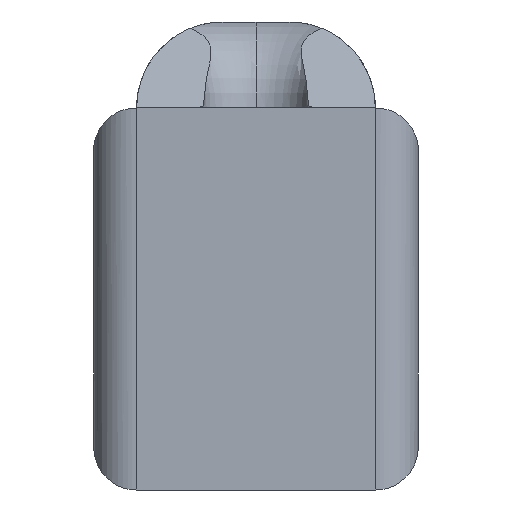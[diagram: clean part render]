
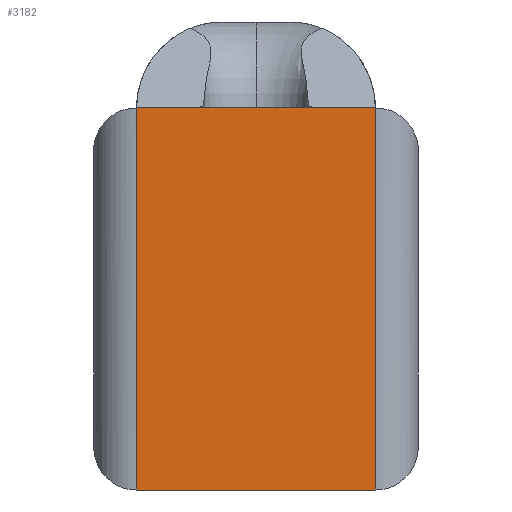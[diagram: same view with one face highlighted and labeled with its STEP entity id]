
A CAD part, left-side view. The second image highlights one B-rep face of the part: STEP entity #3182.
In plain terms, the highlighted planar face has unit normal (-1, 0, 0).
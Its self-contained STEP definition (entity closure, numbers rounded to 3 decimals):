
#69 = ORIENTED_EDGE ( 'NONE', *, *, #2086, .T. ) ;
#88 = EDGE_LOOP ( 'NONE', ( #705, #212, #681, #69 ) ) ;
#212 = ORIENTED_EDGE ( 'NONE', *, *, #4161, .F. ) ;
#275 = LINE ( 'NONE', #596, #3458 ) ;
#330 = DIRECTION ( 'NONE',  ( 0., 1., 0. ) ) ;
#351 = VERTEX_POINT ( 'NONE', #850 ) ;
#504 = DIRECTION ( 'NONE',  ( 0., -1., 0. ) ) ;
#596 = CARTESIAN_POINT ( 'NONE',  ( -11., 2.5, -4. ) ) ;
#655 = VERTEX_POINT ( 'NONE', #1603 ) ;
#681 = ORIENTED_EDGE ( 'NONE', *, *, #3411, .F. ) ;
#694 = DIRECTION ( 'NONE',  ( 1., 0., 0. ) ) ;
#705 = ORIENTED_EDGE ( 'NONE', *, *, #4309, .T. ) ;
#849 = VECTOR ( 'NONE', #4006, 1000. ) ;
#850 = CARTESIAN_POINT ( 'NONE',  ( -11., 2.5, 4. ) ) ;
#1326 = CARTESIAN_POINT ( 'NONE',  ( -11., -2.5, -4. ) ) ;
#1329 = PLANE ( 'NONE',  #1936 ) ;
#1439 = CARTESIAN_POINT ( 'NONE',  ( -11., 2.5, 4. ) ) ;
#1451 = VERTEX_POINT ( 'NONE', #1326 ) ;
#1468 = CARTESIAN_POINT ( 'NONE',  ( -11., 2.5, 4. ) ) ;
#1561 = DIRECTION ( 'NONE',  ( 0., 0., -1. ) ) ;
#1603 = CARTESIAN_POINT ( 'NONE',  ( -11., -2.5, 4. ) ) ;
#1669 = FACE_OUTER_BOUND ( 'NONE', #88, .T. ) ;
#1861 = LINE ( 'NONE', #1468, #2027 ) ;
#1914 = CARTESIAN_POINT ( 'NONE',  ( -11., -2.5, 4. ) ) ;
#1936 = AXIS2_PLACEMENT_3D ( 'NONE', #2718, #694, #330 ) ;
#2027 = VECTOR ( 'NONE', #1561, 1000. ) ;
#2086 = EDGE_CURVE ( 'NONE', #351, #3574, #1861, .T. ) ;
#2313 = VECTOR ( 'NONE', #504, 1000. ) ;
#2718 = CARTESIAN_POINT ( 'NONE',  ( -11., 2.5, 4. ) ) ;
#3182 = ADVANCED_FACE ( 'NONE', ( #1669 ), #1329, .F. ) ;
#3411 = EDGE_CURVE ( 'NONE', #351, #655, #3610, .T. ) ;
#3458 = VECTOR ( 'NONE', #4406, 1000. ) ;
#3574 = VERTEX_POINT ( 'NONE', #4009 ) ;
#3581 = LINE ( 'NONE', #1914, #849 ) ;
#3610 = LINE ( 'NONE', #1439, #2313 ) ;
#4006 = DIRECTION ( 'NONE',  ( 0., 0., -1. ) ) ;
#4009 = CARTESIAN_POINT ( 'NONE',  ( -11., 2.5, -4. ) ) ;
#4161 = EDGE_CURVE ( 'NONE', #655, #1451, #3581, .T. ) ;
#4309 = EDGE_CURVE ( 'NONE', #3574, #1451, #275, .T. ) ;
#4406 = DIRECTION ( 'NONE',  ( 0., -1., 0. ) ) ;
